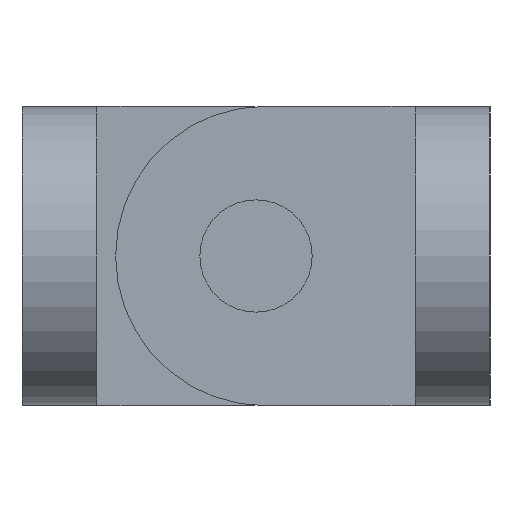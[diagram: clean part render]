
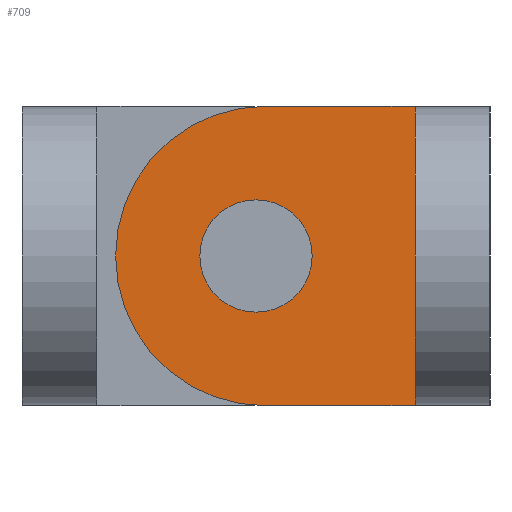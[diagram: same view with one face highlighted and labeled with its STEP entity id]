
A CAD part, left-side view. The second image highlights one B-rep face of the part: STEP entity #709.
In plain terms, the highlighted planar face has unit normal (-1, 0, 0).
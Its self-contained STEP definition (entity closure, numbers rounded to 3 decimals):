
#34 = CARTESIAN_POINT ( 'NONE',  ( -10., 4., 0. ) ) ;
#89 = EDGE_CURVE ( 'NONE', #1330, #1043, #1076, .T. ) ;
#208 = AXIS2_PLACEMENT_3D ( 'NONE', #873, #617, #1227 ) ;
#231 = CARTESIAN_POINT ( 'NONE',  ( -10., 0., 4. ) ) ;
#247 = VECTOR ( 'NONE', #707, 1000. ) ;
#255 = EDGE_LOOP ( 'NONE', ( #327, #418 ) ) ;
#256 = DIRECTION ( 'NONE',  ( 1., 0., 0. ) ) ;
#265 = DIRECTION ( 'NONE',  ( 0., -1., 0. ) ) ;
#274 = VERTEX_POINT ( 'NONE', #419 ) ;
#327 = ORIENTED_EDGE ( 'NONE', *, *, #377, .T. ) ;
#377 = EDGE_CURVE ( 'NONE', #1483, #563, #883, .T. ) ;
#418 = ORIENTED_EDGE ( 'NONE', *, *, #718, .T. ) ;
#419 = CARTESIAN_POINT ( 'NONE',  ( -10., 4., 4. ) ) ;
#457 = DIRECTION ( 'NONE',  ( 1., 0., 0. ) ) ;
#458 = CARTESIAN_POINT ( 'NONE',  ( -10., 4.25, -1.5 ) ) ;
#487 = CIRCLE ( 'NONE', #208, 1.5 ) ;
#513 = CARTESIAN_POINT ( 'NONE',  ( -10., 4., 0. ) ) ;
#532 = VECTOR ( 'NONE', #265, 1000. ) ;
#559 = VECTOR ( 'NONE', #992, 1000. ) ;
#563 = VERTEX_POINT ( 'NONE', #1417 ) ;
#581 = CARTESIAN_POINT ( 'NONE',  ( -10., 4.25, 0. ) ) ;
#611 = FACE_BOUND ( 'NONE', #255, .T. ) ;
#617 = DIRECTION ( 'NONE',  ( 1., 0., 0. ) ) ;
#638 = PLANE ( 'NONE',  #1085 ) ;
#707 = DIRECTION ( 'NONE',  ( 0., 0., -1. ) ) ;
#709 = ADVANCED_FACE ( 'NONE', ( #611, #881 ), #638, .F. ) ;
#718 = EDGE_CURVE ( 'NONE', #563, #1483, #487, .T. ) ;
#728 = EDGE_CURVE ( 'NONE', #274, #1154, #1094, .T. ) ;
#827 = DIRECTION ( 'NONE',  ( 0., 0., -1. ) ) ;
#873 = CARTESIAN_POINT ( 'NONE',  ( -10., 4.25, 0. ) ) ;
#881 = FACE_OUTER_BOUND ( 'NONE', #1005, .T. ) ;
#883 = CIRCLE ( 'NONE', #1515, 1.5 ) ;
#895 = CARTESIAN_POINT ( 'NONE',  ( -10., 4., -4. ) ) ;
#968 = CARTESIAN_POINT ( 'NONE',  ( -10., 4., 4. ) ) ;
#975 = DIRECTION ( 'NONE',  ( 0., 0., -1. ) ) ;
#987 = CARTESIAN_POINT ( 'NONE',  ( -10., 0., 4. ) ) ;
#988 = DIRECTION ( 'NONE',  ( 1., 0., 0. ) ) ;
#992 = DIRECTION ( 'NONE',  ( 0., -1., 0. ) ) ;
#1005 = EDGE_LOOP ( 'NONE', ( #1140, #1136, #1078, #1249 ) ) ;
#1017 = CIRCLE ( 'NONE', #1221, 4. ) ;
#1043 = VERTEX_POINT ( 'NONE', #1195 ) ;
#1071 = EDGE_CURVE ( 'NONE', #1154, #1043, #1303, .T. ) ;
#1076 = LINE ( 'NONE', #1317, #559 ) ;
#1078 = ORIENTED_EDGE ( 'NONE', *, *, #728, .F. ) ;
#1085 = AXIS2_PLACEMENT_3D ( 'NONE', #513, #988, #975 ) ;
#1094 = LINE ( 'NONE', #968, #532 ) ;
#1112 = EDGE_CURVE ( 'NONE', #1330, #274, #1017, .T. ) ;
#1136 = ORIENTED_EDGE ( 'NONE', *, *, #1071, .F. ) ;
#1140 = ORIENTED_EDGE ( 'NONE', *, *, #89, .T. ) ;
#1154 = VERTEX_POINT ( 'NONE', #987 ) ;
#1195 = CARTESIAN_POINT ( 'NONE',  ( -10., 0., -4. ) ) ;
#1221 = AXIS2_PLACEMENT_3D ( 'NONE', #34, #256, #1466 ) ;
#1227 = DIRECTION ( 'NONE',  ( 0., 0., -1. ) ) ;
#1249 = ORIENTED_EDGE ( 'NONE', *, *, #1112, .F. ) ;
#1303 = LINE ( 'NONE', #231, #247 ) ;
#1317 = CARTESIAN_POINT ( 'NONE',  ( -10., 4., -4. ) ) ;
#1330 = VERTEX_POINT ( 'NONE', #895 ) ;
#1417 = CARTESIAN_POINT ( 'NONE',  ( -10., 4.25, 1.5 ) ) ;
#1466 = DIRECTION ( 'NONE',  ( 0., 0., -1. ) ) ;
#1483 = VERTEX_POINT ( 'NONE', #458 ) ;
#1515 = AXIS2_PLACEMENT_3D ( 'NONE', #581, #457, #827 ) ;
